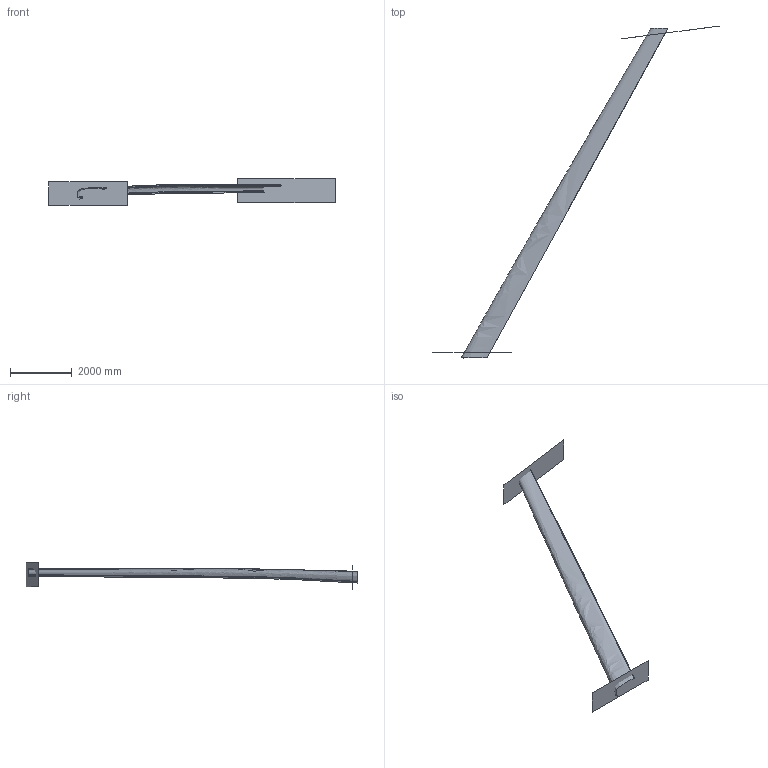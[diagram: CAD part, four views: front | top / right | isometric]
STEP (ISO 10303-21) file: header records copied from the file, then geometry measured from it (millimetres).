
FILE_DESCRIPTION((''),'2;1');
FILE_NAME('','2022-02-15T07:08:17',(''),(''),'','CADfix','');
FILE_SCHEMA(('AUTOMOTIVE_DESIGN { 1 0 10303 214 1 1 1 1 }'));
Length unit declared in the file: inch
Bounding box: 9245.98 x 10718.73 x 870.12 mm (x, y, z)
Surface area: 15720488.6 mm2 (no closed solid volume)
Topology: 0 solids, 0 shells, 5 faces, 20 edges, 20 vertices
Faces by surface type: bspline 5
Entity records: 5920 total; most frequent: CARTESIAN_POINT 5896, B_SPLINE_SURFACE_WITH_KNOTS 5, DIMENSIONAL_EXPONENTS 2, PLANE_ANGLE_MEASURE_WITH_UNIT 1, LENGTH_MEASURE_WITH_UNIT 1, UNCERTAINTY_MEASURE_WITH_UNIT 1, GEOMETRIC_SET 1, GEOMETRICALLY_BOUNDED_SURFACE_SHAPE_REPRESENTATION 1
